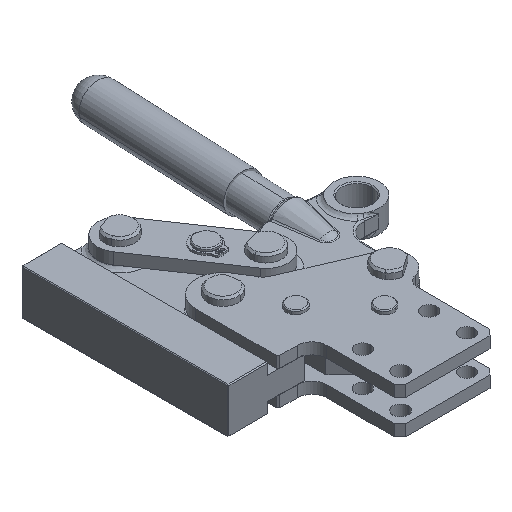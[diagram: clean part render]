
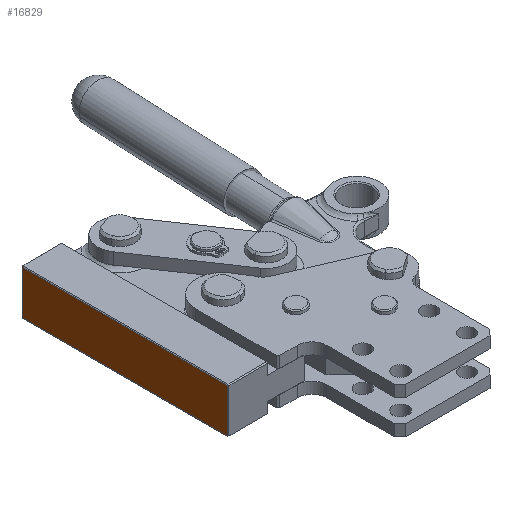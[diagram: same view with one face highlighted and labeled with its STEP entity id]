
A CAD part, isometric view. The second image highlights one B-rep face of the part: STEP entity #16829.
In plain terms, the highlighted planar face has unit normal (-1, 0, 0).
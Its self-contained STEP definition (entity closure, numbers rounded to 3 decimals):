
#530 = LINE ( 'NONE', #5901, #10529 ) ;
#606 = LINE ( 'NONE', #11190, #15041 ) ;
#840 = CARTESIAN_POINT ( 'NONE',  ( -4.357, 108.7, 0. ) ) ;
#1005 = EDGE_CURVE ( 'NONE', #7022, #13150, #15362, .T. ) ;
#1380 = ORIENTED_EDGE ( 'NONE', *, *, #3739, .T. ) ;
#1911 = DIRECTION ( 'NONE',  ( 0., 1., 0. ) ) ;
#2157 = EDGE_CURVE ( 'NONE', #3043, #7022, #606, .T. ) ;
#3043 = VERTEX_POINT ( 'NONE', #14740 ) ;
#3188 = FACE_OUTER_BOUND ( 'NONE', #9415, .T. ) ;
#3739 = EDGE_CURVE ( 'NONE', #13150, #4116, #530, .T. ) ;
#3748 = CARTESIAN_POINT ( 'NONE',  ( -4.357, 108.7, 0.5 ) ) ;
#3952 = ORIENTED_EDGE ( 'NONE', *, *, #1005, .T. ) ;
#4116 = VERTEX_POINT ( 'NONE', #4545 ) ;
#4234 = DIRECTION ( 'NONE',  ( 0., -1., 0. ) ) ;
#4545 = CARTESIAN_POINT ( 'NONE',  ( -4.357, 0.5, 0.5 ) ) ;
#5143 = LINE ( 'NONE', #10449, #8433 ) ;
#5901 = CARTESIAN_POINT ( 'NONE',  ( -4.357, 0., 0.5 ) ) ;
#6287 = DIRECTION ( 'NONE',  ( 0., 0., 1. ) ) ;
#6326 = ORIENTED_EDGE ( 'NONE', *, *, #8909, .T. ) ;
#6917 = ORIENTED_EDGE ( 'NONE', *, *, #2157, .T. ) ;
#7022 = VERTEX_POINT ( 'NONE', #12253 ) ;
#8432 = AXIS2_PLACEMENT_3D ( 'NONE', #15027, #11184, #16505 ) ;
#8433 = VECTOR ( 'NONE', #6287, 1000. ) ;
#8464 = DIRECTION ( 'NONE',  ( 0., 0., -1. ) ) ;
#8909 = EDGE_CURVE ( 'NONE', #4116, #3043, #5143, .T. ) ;
#9415 = EDGE_LOOP ( 'NONE', ( #6326, #6917, #3952, #1380 ) ) ;
#9955 = VECTOR ( 'NONE', #8464, 1000. ) ;
#10449 = CARTESIAN_POINT ( 'NONE',  ( -4.357, 0.5, 0. ) ) ;
#10529 = VECTOR ( 'NONE', #4234, 1000. ) ;
#11184 = DIRECTION ( 'NONE',  ( 1., 0., 0. ) ) ;
#11190 = CARTESIAN_POINT ( 'NONE',  ( -4.357, 0., 23.5 ) ) ;
#12253 = CARTESIAN_POINT ( 'NONE',  ( -4.357, 108.7, 23.5 ) ) ;
#13150 = VERTEX_POINT ( 'NONE', #3748 ) ;
#14740 = CARTESIAN_POINT ( 'NONE',  ( -4.357, 0.5, 23.5 ) ) ;
#15027 = CARTESIAN_POINT ( 'NONE',  ( -4.357, 0., 0. ) ) ;
#15041 = VECTOR ( 'NONE', #1911, 1000. ) ;
#15362 = LINE ( 'NONE', #840, #9955 ) ;
#15378 = PLANE ( 'NONE',  #8432 ) ;
#16505 = DIRECTION ( 'NONE',  ( 0., 0., 1. ) ) ;
#16829 = ADVANCED_FACE ( 'NONE', ( #3188 ), #15378, .F. ) ;
